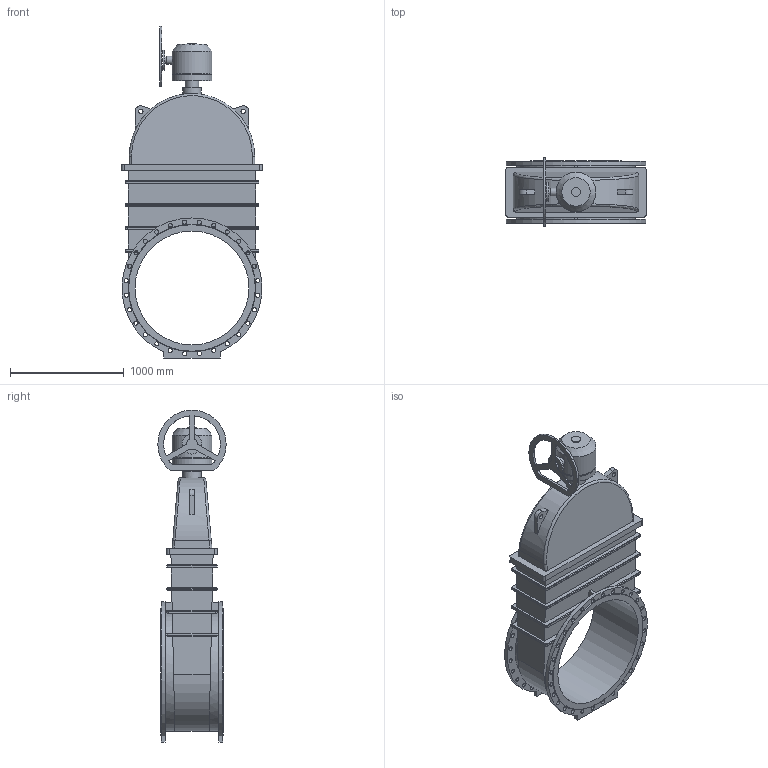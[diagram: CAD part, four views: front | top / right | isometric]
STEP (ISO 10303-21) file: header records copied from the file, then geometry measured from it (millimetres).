
FILE_DESCRIPTION(('STEP AP203'), '1');
FILE_NAME('Çàäâèæêà 47GV.Z DN1000 PN10 + ðåäóêòîð ñ ìàõîâèêîì', '', ('UNSPECIFIED'), ('UNSPECIFIED'), 'ASCON STEP Converter 1.6', 'ASCON Math Kernel', '');
FILE_SCHEMA(('CONFIG_CONTROL_DESIGN'));
Length unit declared in the file: millimetre
Bounding box: 1230 x 600 x 2915 mm (x, y, z)
Volume: 574872812.3 mm3; surface area: 10775817.4 mm2
Topology: 1 solids, 1 shells, 295 faces, 747 edges, 475 vertices
Faces by surface type: cylinder 142, plane 118, bspline 32, cone 3
Full cylindrical faces by diameter (mm): 30 x1, 37 x56, 40 x2, 50 x1, 70 x1, 80 x1, 100 x1, 120 x1, 160 x1, 175 x1, 330 x1, 350 x2, 1000 x1
Entity records: 14223 total; most frequent: CARTESIAN_POINT 4937, DIRECTION 1353, ORIENTED_EDGE 1348, EDGE_CURVE 674, AXIS2_PLACEMENT_3D 515, EDGE_LOOP 513, VERTEX_POINT 475, FACE_BOUND 368
